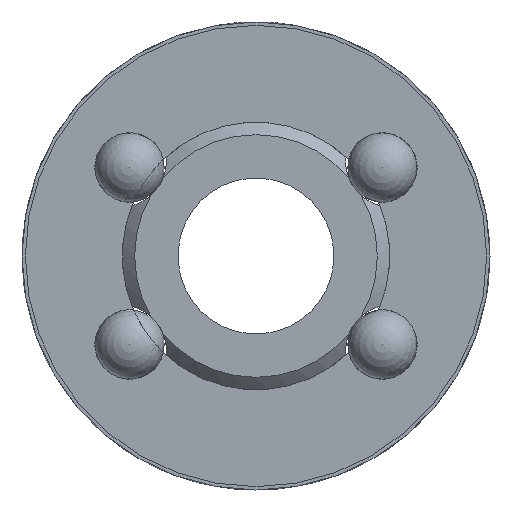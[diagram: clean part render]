
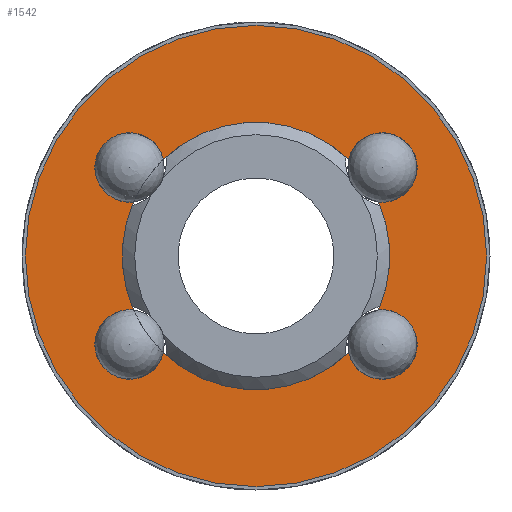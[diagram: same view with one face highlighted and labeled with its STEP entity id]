
A CAD part, left-side view. The second image highlights one B-rep face of the part: STEP entity #1542.
In plain terms, the highlighted planar face has unit normal (-1, 0, 0).
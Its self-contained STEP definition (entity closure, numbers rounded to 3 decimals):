
#53=PLANE('',#1676);
#618=ORIENTED_EDGE('',*,*,#913,.F.);
#619=ORIENTED_EDGE('',*,*,#968,.T.);
#620=ORIENTED_EDGE('',*,*,#919,.F.);
#621=ORIENTED_EDGE('',*,*,#840,.T.);
#622=ORIENTED_EDGE('',*,*,#918,.F.);
#623=ORIENTED_EDGE('',*,*,#969,.T.);
#624=ORIENTED_EDGE('',*,*,#914,.F.);
#625=ORIENTED_EDGE('',*,*,#890,.T.);
#626=ORIENTED_EDGE('',*,*,#966,.T.);
#840=EDGE_CURVE('',#1061,#1060,#1215,.T.);
#890=EDGE_CURVE('',#1101,#1100,#1222,.T.);
#913=EDGE_CURVE('',#1113,#1100,#1227,.F.);
#914=EDGE_CURVE('',#1101,#1114,#1228,.F.);
#918=EDGE_CURVE('',#1117,#1060,#1229,.F.);
#919=EDGE_CURVE('',#1061,#1118,#1230,.F.);
#966=EDGE_CURVE('',#1162,#1162,#1235,.T.);
#968=EDGE_CURVE('',#1113,#1118,#1237,.T.);
#969=EDGE_CURVE('',#1117,#1114,#1238,.T.);
#1060=VERTEX_POINT('',#2227);
#1061=VERTEX_POINT('',#2229);
#1100=VERTEX_POINT('',#2629);
#1101=VERTEX_POINT('',#2631);
#1113=VERTEX_POINT('',#2780);
#1114=VERTEX_POINT('',#2782);
#1117=VERTEX_POINT('',#2794);
#1118=VERTEX_POINT('',#2797);
#1162=VERTEX_POINT('',#2965);
#1215=CIRCLE('',#1641,1.56);
#1222=CIRCLE('',#1654,1.56);
#1227=CIRCLE('',#1665,6.);
#1228=CIRCLE('',#1666,6.);
#1229=CIRCLE('',#1667,6.);
#1230=CIRCLE('',#1668,6.);
#1235=CIRCLE('',#1674,10.35);
#1237=CIRCLE('',#1677,1.56);
#1238=CIRCLE('',#1678,1.56);
#1320=EDGE_LOOP('',(#618,#619,#620,#621,#622,#623,#624,#625));
#1321=EDGE_LOOP('',(#626));
#1442=FACE_BOUND('',#1320,.T.);
#1443=FACE_BOUND('',#1321,.T.);
#1542=ADVANCED_FACE('',(#1442,#1443),#53,.F.);
#1641=AXIS2_PLACEMENT_3D('',#2228,#1829,#1830);
#1654=AXIS2_PLACEMENT_3D('',#2630,#1873,#1874);
#1665=AXIS2_PLACEMENT_3D('',#2779,#1899,#1900);
#1666=AXIS2_PLACEMENT_3D('',#2781,#1901,#1902);
#1667=AXIS2_PLACEMENT_3D('',#2795,#1905,#1906);
#1668=AXIS2_PLACEMENT_3D('',#2796,#1907,#1908);
#1674=AXIS2_PLACEMENT_3D('',#2964,#1941,#1942);
#1676=AXIS2_PLACEMENT_3D('',#2968,#1945,#1946);
#1677=AXIS2_PLACEMENT_3D('',#2969,#1947,#1948);
#1678=AXIS2_PLACEMENT_3D('',#2970,#1949,#1950);
#1829=DIRECTION('',(1.,0.,0.));
#1830=DIRECTION('',(0.,0.819,0.574));
#1873=DIRECTION('',(1.,0.,0.));
#1874=DIRECTION('',(0.,-0.819,-0.574));
#1899=DIRECTION('',(1.,0.,0.));
#1900=DIRECTION('',(0.,0.,-1.));
#1901=DIRECTION('',(1.,0.,0.));
#1902=DIRECTION('',(0.,0.,-1.));
#1905=DIRECTION('',(1.,0.,0.));
#1906=DIRECTION('',(0.,0.,-1.));
#1907=DIRECTION('',(1.,0.,0.));
#1908=DIRECTION('',(0.,0.,-1.));
#1941=DIRECTION('',(-1.,0.,0.));
#1942=DIRECTION('',(0.,0.,1.));
#1945=DIRECTION('',(1.,0.,0.));
#1946=DIRECTION('',(0.,0.,-1.));
#1947=DIRECTION('',(1.,0.,0.));
#1948=DIRECTION('',(0.,0.819,-0.574));
#1949=DIRECTION('',(1.,0.,0.));
#1950=DIRECTION('',(0.,-0.819,0.574));
#2227=CARTESIAN_POINT('',(-17.5,-4.154,-4.329));
#2228=CARTESIAN_POINT('',(-17.5,-5.673,-3.972));
#2229=CARTESIAN_POINT('',(-17.5,-5.489,-2.423));
#2629=CARTESIAN_POINT('',(-17.5,4.154,4.329));
#2630=CARTESIAN_POINT('',(-17.5,5.673,3.972));
#2631=CARTESIAN_POINT('',(-17.5,5.489,2.423));
#2779=CARTESIAN_POINT('',(-17.5,0.,0.));
#2780=CARTESIAN_POINT('',(-17.5,-4.154,4.329));
#2781=CARTESIAN_POINT('',(-17.5,0.,0.));
#2782=CARTESIAN_POINT('',(-17.5,5.489,-2.423));
#2794=CARTESIAN_POINT('',(-17.5,4.154,-4.329));
#2795=CARTESIAN_POINT('',(-17.5,0.,0.));
#2796=CARTESIAN_POINT('',(-17.5,0.,0.));
#2797=CARTESIAN_POINT('',(-17.5,-5.489,2.423));
#2964=CARTESIAN_POINT('',(-17.5,0.,0.));
#2965=CARTESIAN_POINT('',(-17.5,0.,10.35));
#2968=CARTESIAN_POINT('',(-17.5,10.35,0.));
#2969=CARTESIAN_POINT('',(-17.5,-5.673,3.972));
#2970=CARTESIAN_POINT('',(-17.5,5.673,-3.972));
